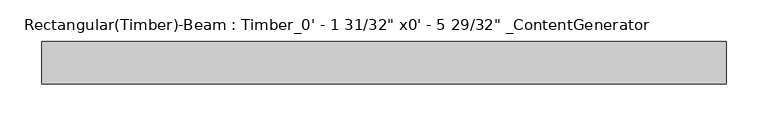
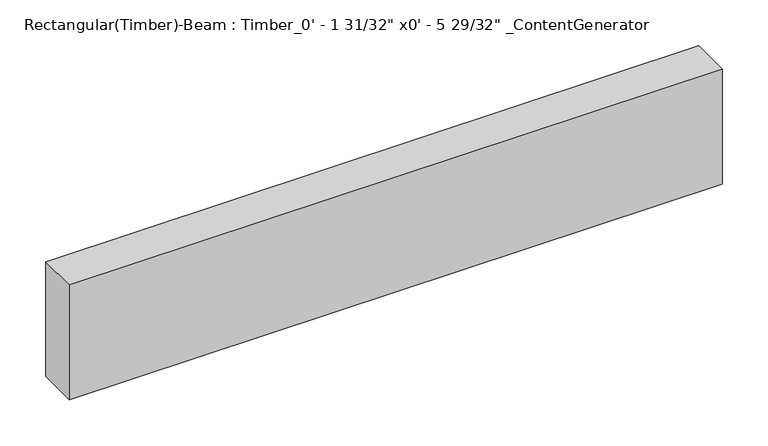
"""IFC4 building model written with IfcOpenShell, lengths in millimetres: beam geometry."""

from ifc_helpers import new_model, si_unit, frame, origin, place, context, project, spatial, polyline, outline, extrude, source, transform, mapped, element, save


def beam_0a15c773(model_context):
    return source(origin(), model_context, "Body", "SweptSolid", [
        extrude(outline(polyline([(409.575, 25.4), (409.575, -25.4), (-409.575, -25.4), (-409.575, 25.4), (409.575, 25.4)])), frame((0.0, 0.0, -76.2), z_axis=(0.0, 0.0, 1.0), x_axis=(1.0, 0.0, 0.0)), (0.0, 0.0, 1.0), 152.4),
    ])


if __name__ == "__main__":
    model = new_model("IFC4")
    model_context = context("Model", 3, world=origin())
    ifc_project = project(units=[si_unit("LENGTHUNIT", "METRE", prefix="MILLI")], contexts=[model_context])
    site = spatial("IfcSite", under=ifc_project)
    building = spatial("IfcBuilding", under=site)
    placement = place(None, origin())
    beam_shape = beam_0a15c773(model_context)
    element("IfcBeam", 1, ObjectType="Rectangular(Timber)-Beam : Timber_0' - 1 31/32\" x0' - 5 29/32\" _ContentGenerator", at=placement, inside=building, context=model_context, shape_type="MappedRepresentation", body=[
        mapped(beam_shape, transform((0.0, 0.0, 0.0), x_axis=(1.0, 0.0, 0.0), y_axis=(0.0, 1.0, 0.0), z_axis=(0.0, 0.0, 1.0))),
    ])
    save(model, "model.ifc")
